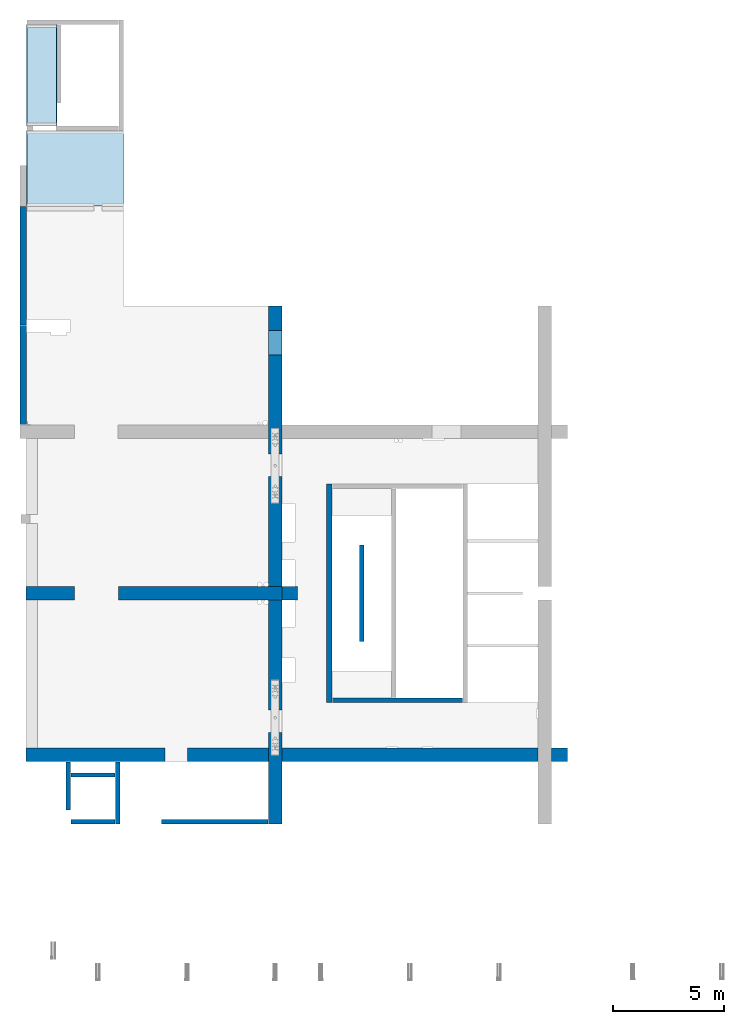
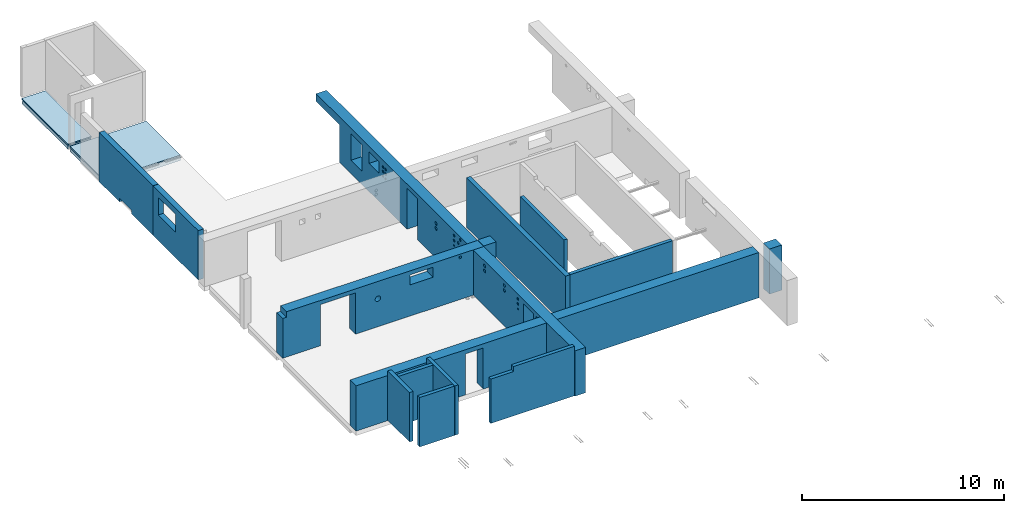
# One storey, part 4 of 8: 14 walls, 4 slabs, 45 openings.
"""IFC2X3 building model written with IfcOpenShell, lengths in millimetres."""

from ifc_helpers import new_model, entity, si_unit, converted_unit, derived_unit, direction, frame, frame_2d, origin, origin_2d_with_axis, place, context, subcontext, project, spatial, rectangle, circle, extrude, faceted_brep, material, layer, layer_set, layer_usage, type_object, element, save


model = new_model("IFC2X3")

# Units and contexts
model_context = context("Model", 3, precision=0.01, world=origin(), true_north=direction((6.12303176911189e-17, 1.0)))
body_context = subcontext(model_context, "Body", "Model", "MODEL_VIEW")
ifc_project = project(units=[si_unit("LENGTHUNIT", "METRE", prefix="MILLI"), si_unit("AREAUNIT", "SQUARE_METRE"), si_unit("VOLUMEUNIT", "CUBIC_METRE"), converted_unit("PLANEANGLEUNIT", "DEGREE", entity("IfcRatioMeasure", 0.0174532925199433), si_unit("PLANEANGLEUNIT", "RADIAN"), dimensions=[0, 0, 0, 0, 0, 0, 0]), si_unit("MASSUNIT", "GRAM", prefix="KILO"), derived_unit("MASSDENSITYUNIT", [(si_unit("MASSUNIT", "GRAM", prefix="KILO"), 1), (si_unit("LENGTHUNIT", "METRE"), -3)]), si_unit("TIMEUNIT", "SECOND"), si_unit("FREQUENCYUNIT", "HERTZ"), si_unit("THERMODYNAMICTEMPERATUREUNIT", "DEGREE_CELSIUS"), derived_unit("THERMALTRANSMITTANCEUNIT", [(si_unit("MASSUNIT", "GRAM", prefix="KILO"), 1), (si_unit("THERMODYNAMICTEMPERATUREUNIT", "KELVIN"), -1), (si_unit("TIMEUNIT", "SECOND"), -3)]), derived_unit("VOLUMETRICFLOWRATEUNIT", [(si_unit("LENGTHUNIT", "METRE"), 3), (si_unit("TIMEUNIT", "SECOND"), -1)]), si_unit("ELECTRICCURRENTUNIT", "AMPERE"), si_unit("ELECTRICVOLTAGEUNIT", "VOLT"), si_unit("POWERUNIT", "WATT"), si_unit("FORCEUNIT", "NEWTON", prefix="KILO"), si_unit("ILLUMINANCEUNIT", "LUX"), si_unit("LUMINOUSFLUXUNIT", "LUMEN"), si_unit("LUMINOUSINTENSITYUNIT", "CANDELA"), derived_unit("USERDEFINED", [(si_unit("MASSUNIT", "GRAM", prefix="KILO"), -1), (si_unit("LENGTHUNIT", "METRE"), -2), (si_unit("TIMEUNIT", "SECOND"), 3), (si_unit("LUMINOUSFLUXUNIT", "LUMEN"), 1)]), derived_unit("LINEARVELOCITYUNIT", [(si_unit("LENGTHUNIT", "METRE"), 1), (si_unit("TIMEUNIT", "SECOND"), -1)]), si_unit("PRESSUREUNIT", "PASCAL"), derived_unit("USERDEFINED", [(si_unit("LENGTHUNIT", "METRE"), -2), (si_unit("MASSUNIT", "GRAM", prefix="KILO"), 1), (si_unit("TIMEUNIT", "SECOND"), -2)])], contexts=[model_context])

# Site, building, storey
site_placement = place(None, origin())
site = spatial("IfcSite", under=ifc_project, at=site_placement, Name="Default", CompositionType="ELEMENT")
building_placement = place(site_placement, origin())
building = spatial("IfcBuilding", under=site, at=building_placement, Name="niet gebruiken", CompositionType="ELEMENT")
storey_placement = place(building_placement, frame((0.0, 0.0, 3000.0)))
storey = spatial("IfcBuildingStorey", under=building, at=storey_placement, Name="00a eerste tussenverdieping", CompositionType="ELEMENT", Elevation=3000.00000000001)

# Slabs
ifc_material_1 = material(Name="NLRS_f2_beton prefab")
ifc_layer_1 = layer(ifc_material_1, 255.0)
ifc_layer_set_1 = layer_set([ifc_layer_1], Name="Floor:NLRS_23.21_FL_kanaalplaat d=255_gen")
ifc_layer_usage_1 = layer_usage(ifc_layer_set_1, "AXIS3", "POSITIVE", 0.0)
slab_1_placement = place(storey_placement, frame((124570.0, 34885.0, -415.0)))
element("IfcSlab", 1, at=slab_1_placement, inside=storey, material=ifc_layer_usage_1, Name="Floor:NLRS_23.21_FL_kanaalplaat d=255_gen", ObjectType="Floor:NLRS_23.21_FL_kanaalplaat d=255_gen", PredefinedType="FLOOR", context=body_context, shape_type="SweptSolid", body=[
    extrude(rectangle(XDim=1310.00000000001, YDim=4490.00000000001, at=frame_2d((1510.0, 1810.0), x_axis=(-1.0, 0.0))), frame((2165.0, 4055.0, 255.0), z_axis=(0.0, 0.0, -1.0), x_axis=(-1.0, 0.0, 0.0)), (0.0, 0.0, 1.0), 255.0),
])
slab_2_placement = place(storey_placement, frame((124570.0, 34885.0, -415.0)))
element("IfcSlab", 2, at=slab_2_placement, inside=storey, material=ifc_layer_usage_1, Name="Floor:NLRS_23.21_FL_kanaalplaat d=255_gen:2", ObjectType="Floor:NLRS_23.21_FL_kanaalplaat d=255_gen", PredefinedType="FLOOR", context=body_context, shape_type="SweptSolid", body=[
    extrude(rectangle(XDim=4330.00000000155, YDim=3349.99999999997, at=frame_2d((0.0, -2380.0), x_axis=(-1.0, 0.0))), frame((2165.0, 4055.0, 255.0), z_axis=(0.0, 0.0, -1.0), x_axis=(-1.0, 0.0, 0.0)), (0.0, 0.0, 1.0), 255.0),
])
ifc_material_2 = material(Name="NLRS_f2_beton ihwg")
ifc_layer_2 = layer(ifc_material_2, 70.0)
ifc_layer_set_2 = layer_set([ifc_layer_2], Name="Floor:NLRS_23.21_FL_druklaag d=70_gen")
ifc_layer_usage_2 = layer_usage(ifc_layer_set_2, "AXIS3", "POSITIVE", 0.0)
slab_3_placement = place(storey_placement, frame((124550.0, 34885.0, -160.0)))
element("IfcSlab", 3, at=slab_3_placement, inside=storey, material=ifc_layer_usage_2, Name="Floor:NLRS_23.21_FL_druklaag d=70_gen", ObjectType="Floor:NLRS_23.21_FL_druklaag d=70_gen", PredefinedType="FLOOR", context=body_context, shape_type="SweptSolid", body=[
    extrude(rectangle(XDim=3385.00000000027, YDim=4349.99999999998, at=frame_2d((0.0, -2380.0), x_axis=(0.0, -1.0))), frame((2175.0, 4072.49999999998, 70.0), z_axis=(0.0, 0.0, -1.0), x_axis=(-1.0, 0.0, 0.0)), (0.0, 0.0, 1.0), 69.9999999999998),
])
slab_4_placement = place(storey_placement, frame((124550.0, 34885.0, -160.0)))
element("IfcSlab", 4, at=slab_4_placement, inside=storey, material=ifc_layer_usage_2, Name="Floor:NLRS_23.21_FL_druklaag d=70_gen:2", ObjectType="Floor:NLRS_23.21_FL_druklaag d=70_gen", PredefinedType="FLOOR", context=body_context, shape_type="SweptSolid", body=[
    extrude(rectangle(XDim=4560.0, YDim=1350.0, at=frame_2d((1500.0, 1792.49999999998), x_axis=(0.0, -1.0))), frame((2175.0, 4072.49999999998, 70.0), z_axis=(0.0, 0.0, -1.0), x_axis=(-1.0, 0.0, 0.0)), (0.0, 0.0, 1.0), 69.9999999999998),
])

# Wall, openings
ifc_layer_3 = layer(ifc_material_2, 600.0)
ifc_layer_set_3 = layer_set([ifc_layer_3], Name="Basic Wall:NLRS_22.21_WA_beton ihwg d=600_gen")
ifc_layer_usage_3 = layer_usage(ifc_layer_set_3, "AXIS2", "NEGATIVE", 300.0)
wall_type_1 = type_object("IfcWallType", Name="Basic Wall:NLRS_22.21_WA_beton ihwg d=600_gen", PredefinedType="STANDARD", material=ifc_layer_set_3)
wall_1_placement = place(storey_placement, frame((124530.0, 10250.0, -90.0)))
wall_1 = element("IfcWallStandardCase", 5, at=wall_1_placement, inside=storey, type_object=wall_type_1, material=ifc_layer_usage_3, Name="Basic Wall:NLRS_22.21_WA_beton ihwg d=600_gen", ObjectType="Basic Wall:NLRS_22.21_WA_beton ihwg d=600_gen", context=body_context, shape_type="SweptSolid", body=[
    extrude(rectangle(XDim=24284.0000000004, YDim=599.999999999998, at=frame_2d((12142.0000000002, -3.12638803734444e-13), x_axis=(-1.0, 0.0))), origin(), (0.0, 0.0, 1.0), 2730.0),
])
opening_1_placement = place(storey_placement, frame((124530.0, 10250.0, -90.0)))
element("IfcOpeningElement", 6, at=opening_1_placement, cuts=wall_1, Name="Basic Wall:NLRS_22.21_WA_beton ihwg d=600_gen:1", ObjectType="Opening", context=body_context, shape_type="SweptSolid", body=[
    extrude(rectangle(XDim=2730.0, YDim=600.0, at=frame_2d((0.0, 1.08002495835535e-12), x_axis=(1.0, 0.0))), frame((10870.0, 0.0, 1365.0), z_axis=(1.0, 0.0, 0.0), x_axis=(0.0, 0.0, -1.0)), (0.0, 0.0, 1.0), 600.000000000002),
])
opening_2_placement = place(storey_placement, frame((124530.0, 10250.0, -90.0)))
element("IfcOpeningElement", 7, at=opening_2_placement, cuts=wall_1, Name="Basic Wall:NLRS_22.21_WA_beton ihwg d=600_gen:2", ObjectType="Opening", context=body_context, shape_type="SweptSolid", body=[
    extrude(rectangle(XDim=2730.0, YDim=600.0, at=frame_2d((0.0, 1.08002495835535e-12), x_axis=(1.0, 0.0))), frame((22970.0, 0.0, 1365.0), z_axis=(1.0, 0.0, 0.0), x_axis=(0.0, 0.0, -1.0)), (0.0, 0.0, 1.0), 600.000000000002),
])
opening_3_placement = place(wall_1_placement, origin())
element("IfcOpeningElement", 8, at=opening_3_placement, cuts=wall_1, Name="Basic Wall:NLRS_22.21_WA_beton ihwg d=600_gen", ObjectType="Opening", context=body_context, shape_type="SweptSolid", body=[
    extrude(rectangle(XDim=2475.0, YDim=1015.99999999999, at=frame_2d((0.0, -8.66862137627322e-12), x_axis=(1.0, 0.0))), frame((6738.0, -300.0, 1237.5), z_axis=(0.0, 1.0, 0.0), x_axis=(0.0, 0.0, -1.0)), (0.0, 0.0, 1.0), 600.0),
])

ifc_layer_usage_4 = layer_usage(ifc_layer_set_3, "AXIS2", "NEGATIVE", 300.0)
wall_2_placement = place(storey_placement, frame((124530.0, 17500.0, -90.0)))
wall_2 = element("IfcWallStandardCase", 9, at=wall_2_placement, inside=storey, type_object=wall_type_1, material=ifc_layer_usage_4, Name="Basic Wall:NLRS_22.21_WA_beton ihwg d=600_gen", ObjectType="Basic Wall:NLRS_22.21_WA_beton ihwg d=600_gen", context=body_context, shape_type="SweptSolid", body=[
    extrude(rectangle(XDim=11470.0000000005, YDim=600.000000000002, at=frame_2d((5735.00000000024, 0.0), x_axis=(-1.0, 0.0))), origin(), (0.0, 0.0, 1.0), 2730.0),
])
opening_4_placement = place(wall_2_placement, origin())
element("IfcOpeningElement", 10, at=opening_4_placement, cuts=wall_2, Name="Basic Wall:NLRS_22.21_WA_beton ihwg d=600_gen", ObjectType="Opening", context=body_context, shape_type="SweptSolid", body=[
    extrude(rectangle(XDim=2485.0, YDim=1985.0, at=frame_2d((0.0, -8.69704308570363e-12), x_axis=(1.0, 0.0))), frame((3152.50000000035, -300.0, 1242.5), z_axis=(0.0, 1.0, 0.0), x_axis=(0.0, 0.0, -1.0)), (0.0, 0.0, 1.0), 600.0),
])
opening_5_placement = place(wall_2_placement, origin())
element("IfcOpeningElement", 11, at=opening_5_placement, cuts=wall_2, Name="Basic Wall:NLRS_22.21_WA_beton ihwg d=600_gen", ObjectType="Opening", context=body_context, shape_type="SweptSolid", body=[
    extrude(circle(Radius=80.0, at=origin_2d_with_axis()), frame((10120.0, -300.0, 2540.0), z_axis=(0.0, 1.0, 0.0), x_axis=(1.0, 0.0, 0.0)), (0.0, 0.0, 1.0), 600.0),
])
opening_6_placement = place(wall_2_placement, origin())
element("IfcOpeningElement", 12, at=opening_6_placement, cuts=wall_2, Name="Basic Wall:NLRS_22.21_WA_beton ihwg d=600_gen", ObjectType="Opening", context=body_context, shape_type="SweptSolid", body=[
    extrude(circle(Radius=157.5, at=frame_2d((0.0, -1.08286712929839e-12), x_axis=(1.0, 0.0))), frame((5425.0, -300.0, 1690.0), z_axis=(0.0, 1.0, 0.0), x_axis=(1.0, 0.0, 0.0)), (0.0, 0.0, 1.0), 600.0),
])
opening_7_placement = place(wall_2_placement, origin())
element("IfcOpeningElement", 13, at=opening_7_placement, cuts=wall_2, Name="Basic Wall:NLRS_22.21_WA_beton ihwg d=600_gen", ObjectType="Opening", context=body_context, shape_type="SweptSolid", body=[
    extrude(rectangle(XDim=600.000000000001, YDim=1300.0, at=frame_2d((0.0, 8.69704308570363e-12), x_axis=(1.0, 0.0))), frame((7920.0, -300.0, 2185.0), z_axis=(0.0, 1.0, 0.0), x_axis=(0.0, 0.0, -1.0)), (0.0, 0.0, 1.0), 600.0),
])
opening_8_placement = place(wall_2_placement, origin())
element("IfcOpeningElement", 14, at=opening_8_placement, cuts=wall_2, Name="Basic Wall:NLRS_22.21_WA_beton ihwg d=600_gen", ObjectType="Opening", context=body_context, shape_type="SweptSolid", body=[
    extrude(rectangle(XDim=329.999999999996, YDim=220.00000000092, at=frame_2d((0.0, -5.40012479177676e-13), x_axis=(0.0, 1.0))), frame((110.0, 300.0, 2565.0), z_axis=(0.0, -1.0, 0.0), x_axis=(-1.0, 0.0, 0.0)), (0.0, 0.0, 1.0), 600.0),
])

ifc_layer_usage_5 = layer_usage(ifc_layer_set_3, "AXIS2", "NEGATIVE", 300.0)
wall_3_placement = place(storey_placement, frame((135700.0, 7150.0, -90.0), z_axis=(0.0, 0.0, 1.0), x_axis=(0.0, 1.0, 0.0)))
wall_3 = element("IfcWallStandardCase", 15, at=wall_3_placement, inside=storey, type_object=wall_type_1, material=ifc_layer_usage_5, Name="Basic Wall:NLRS_22.21_WA_beton ihwg d=600_gen", ObjectType="Basic Wall:NLRS_22.21_WA_beton ihwg d=600_gen", context=body_context, shape_type="SweptSolid", body=[
    extrude(rectangle(XDim=25580.000000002, YDim=600.000000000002, at=frame_2d((12790.000000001, 1.3926637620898e-12), x_axis=(-1.0, 0.0))), origin(), (0.0, 0.0, 1.0), 2730.0),
])
opening_9_placement = place(storey_placement, frame((135700.0, 7150.0, -90.0), z_axis=(0.0, 0.0, 1.0), x_axis=(0.0, 1.0, 0.0)))
element("IfcOpeningElement", 16, at=opening_9_placement, cuts=wall_3, Name="Basic Wall:NLRS_22.21_WA_beton ihwg d=600_gen:1", ObjectType="Opening", context=body_context, shape_type="SweptSolid", body=[
    extrude(rectangle(XDim=2730.0, YDim=600.000000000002, at=origin_2d_with_axis()), frame((10050.0, 0.0, 1365.0), z_axis=(1.0, 0.0, 0.0), x_axis=(0.0, 0.0, -1.0)), (0.0, 0.0, 1.0), 600.0),
])
opening_10_placement = place(wall_3_placement, origin())
element("IfcOpeningElement", 17, at=opening_10_placement, cuts=wall_3, Name="Basic Wall:NLRS_22.21_WA_beton ihwg d=600_gen", ObjectType="Opening", context=body_context, shape_type="SweptSolid", body=[
    extrude(rectangle(XDim=2475.0, YDim=1016.0, at=frame_2d((0.0, 1.08002495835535e-12), x_axis=(1.0, 0.0))), frame((4608.0, -300.0, 1237.5), z_axis=(0.0, 1.0, 0.0), x_axis=(0.0, 0.0, -1.0)), (0.0, 0.0, 1.0), 600.000000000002),
])
opening_11_placement = place(wall_3_placement, origin())
element("IfcOpeningElement", 18, at=opening_11_placement, cuts=wall_3, Name="Basic Wall:NLRS_22.21_WA_beton ihwg d=600_gen", ObjectType="Opening", context=body_context, shape_type="SweptSolid", body=[
    extrude(rectangle(XDim=2475.0, YDim=1016.0, at=frame_2d((0.0, -2.1600499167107e-12), x_axis=(1.0, 0.0))), frame((16092.0, -300.0, 1237.5), z_axis=(0.0, 1.0, 0.0), x_axis=(0.0, 0.0, -1.0)), (0.0, 0.0, 1.0), 600.000000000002),
])
opening_12_placement = place(wall_3_placement, origin())
element("IfcOpeningElement", 19, at=opening_12_placement, cuts=wall_3, Name="Basic Wall:NLRS_22.21_WA_beton ihwg d=600_gen", ObjectType="Opening", context=body_context, shape_type="SweptSolid", body=[
    extrude(circle(Radius=100.0, at=origin_2d_with_axis()), frame((8935.0, -300.0, 2440.0), z_axis=(0.0, 1.0, 0.0), x_axis=(1.0, 0.0, 0.0)), (0.0, 0.0, 1.0), 600.000000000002),
])
opening_13_placement = place(wall_3_placement, origin())
element("IfcOpeningElement", 20, at=opening_13_placement, cuts=wall_3, Name="Basic Wall:NLRS_22.21_WA_beton ihwg d=600_gen", ObjectType="Opening", context=body_context, shape_type="SweptSolid", body=[
    extrude(circle(Radius=100.0, at=origin_2d_with_axis()), frame((8935.0, -300.0, 2140.0), z_axis=(0.0, 1.0, 0.0), x_axis=(1.0, 0.0, 0.0)), (0.0, 0.0, 1.0), 600.000000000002),
])
opening_14_placement = place(wall_3_placement, origin())
element("IfcOpeningElement", 21, at=opening_14_placement, cuts=wall_3, Name="Basic Wall:NLRS_22.21_WA_beton ihwg d=600_gen", ObjectType="Opening", context=body_context, shape_type="SweptSolid", body=[
    extrude(circle(Radius=100.0, at=origin_2d_with_axis()), frame((6985.0, -300.0, 2440.0), z_axis=(0.0, 1.0, 0.0), x_axis=(1.0, 0.0, 0.0)), (0.0, 0.0, 1.0), 600.000000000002),
])
opening_15_placement = place(wall_3_placement, origin())
element("IfcOpeningElement", 22, at=opening_15_placement, cuts=wall_3, Name="Basic Wall:NLRS_22.21_WA_beton ihwg d=600_gen", ObjectType="Opening", context=body_context, shape_type="SweptSolid", body=[
    extrude(circle(Radius=100.0, at=origin_2d_with_axis()), frame((6985.0, -300.0, 2140.0), z_axis=(0.0, 1.0, 0.0), x_axis=(1.0, 0.0, 0.0)), (0.0, 0.0, 1.0), 600.000000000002),
])
opening_16_placement = place(wall_3_placement, origin())
element("IfcOpeningElement", 23, at=opening_16_placement, cuts=wall_3, Name="Basic Wall:NLRS_22.21_WA_beton ihwg d=600_gen", ObjectType="Opening", context=body_context, shape_type="SweptSolid", body=[
    extrude(circle(Radius=80.0, at=origin_2d_with_axis()), frame((5655.0, -300.0, 2440.0), z_axis=(0.0, 1.0, 0.0), x_axis=(1.0, 0.0, 0.0)), (0.0, 0.0, 1.0), 600.000000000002),
])
opening_17_placement = place(wall_3_placement, origin())
element("IfcOpeningElement", 24, at=opening_17_placement, cuts=wall_3, Name="Basic Wall:NLRS_22.21_WA_beton ihwg d=600_gen", ObjectType="Opening", context=body_context, shape_type="SweptSolid", body=[
    extrude(circle(Radius=80.0, at=origin_2d_with_axis()), frame((5655.0, -300.0, 2140.0), z_axis=(0.0, 1.0, 0.0), x_axis=(1.0, 0.0, 0.0)), (0.0, 0.0, 1.0), 600.000000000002),
])
opening_18_placement = place(wall_3_placement, origin())
element("IfcOpeningElement", 25, at=opening_18_placement, cuts=wall_3, Name="Basic Wall:NLRS_22.21_WA_beton ihwg d=600_gen", ObjectType="Opening", context=body_context, shape_type="SweptSolid", body=[
    extrude(circle(Radius=55.0, at=origin_2d_with_axis()), frame((5655.0, -300.0, 1840.0), z_axis=(0.0, 1.0, 0.0), x_axis=(1.0, 0.0, 0.0)), (0.0, 0.0, 1.0), 600.000000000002),
])
opening_19_placement = place(wall_3_placement, origin())
element("IfcOpeningElement", 26, at=opening_19_placement, cuts=wall_3, Name="Basic Wall:NLRS_22.21_WA_beton ihwg d=600_gen", ObjectType="Opening", context=body_context, shape_type="SweptSolid", body=[
    extrude(circle(Radius=100.0, at=origin_2d_with_axis()), frame((13735.0, -300.0, 2090.0), z_axis=(0.0, 1.0, 0.0), x_axis=(1.0, 0.0, 0.0)), (0.0, 0.0, 1.0), 600.000000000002),
])
opening_20_placement = place(wall_3_placement, origin())
element("IfcOpeningElement", 27, at=opening_20_placement, cuts=wall_3, Name="Basic Wall:NLRS_22.21_WA_beton ihwg d=600_gen", ObjectType="Opening", context=body_context, shape_type="SweptSolid", body=[
    extrude(circle(Radius=100.0, at=frame_2d((0.0, -5.41433564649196e-13), x_axis=(1.0, 0.0))), frame((13735.0, -300.0, 1790.0), z_axis=(0.0, 1.0, 0.0), x_axis=(1.0, 0.0, 0.0)), (0.0, 0.0, 1.0), 600.000000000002),
])
opening_21_placement = place(wall_3_placement, origin())
element("IfcOpeningElement", 28, at=opening_21_placement, cuts=wall_3, Name="Basic Wall:NLRS_22.21_WA_beton ihwg d=600_gen", ObjectType="Opening", context=body_context, shape_type="SweptSolid", body=[
    extrude(circle(Radius=80.0, at=origin_2d_with_axis()), frame((11955.0, -300.0, 2440.0), z_axis=(0.0, 1.0, 0.0), x_axis=(1.0, 0.0, 0.0)), (0.0, 0.0, 1.0), 600.000000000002),
])
opening_22_placement = place(wall_3_placement, origin())
element("IfcOpeningElement", 29, at=opening_22_placement, cuts=wall_3, Name="Basic Wall:NLRS_22.21_WA_beton ihwg d=600_gen", ObjectType="Opening", context=body_context, shape_type="SweptSolid", body=[
    extrude(circle(Radius=80.0, at=origin_2d_with_axis()), frame((11955.0, -300.0, 2140.0), z_axis=(0.0, 1.0, 0.0), x_axis=(1.0, 0.0, 0.0)), (0.0, 0.0, 1.0), 600.000000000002),
])
opening_23_placement = place(wall_3_placement, origin())
element("IfcOpeningElement", 30, at=opening_23_placement, cuts=wall_3, Name="Basic Wall:NLRS_22.21_WA_beton ihwg d=600_gen", ObjectType="Opening", context=body_context, shape_type="SweptSolid", body=[
    extrude(circle(Radius=55.0, at=origin_2d_with_axis()), frame((11955.0, -300.0, 1840.0), z_axis=(0.0, 1.0, 0.0), x_axis=(1.0, 0.0, 0.0)), (0.0, 0.0, 1.0), 600.000000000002),
])
opening_24_placement = place(wall_3_placement, origin())
element("IfcOpeningElement", 31, at=opening_24_placement, cuts=wall_3, Name="Basic Wall:NLRS_22.21_WA_beton ihwg d=600_gen", ObjectType="Opening", context=body_context, shape_type="SweptSolid", body=[
    extrude(circle(Radius=80.0, at=origin_2d_with_axis()), frame((11345.0, -300.0, 2540.0), z_axis=(0.0, 1.0, 0.0), x_axis=(1.0, 0.0, 0.0)), (0.0, 0.0, 1.0), 600.000000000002),
])
opening_25_placement = place(wall_3_placement, origin())
element("IfcOpeningElement", 32, at=opening_25_placement, cuts=wall_3, Name="Basic Wall:NLRS_22.21_WA_beton ihwg d=600_gen", ObjectType="Opening", context=body_context, shape_type="SweptSolid", body=[
    extrude(circle(Radius=80.0, at=origin_2d_with_axis()), frame((11545.0, -300.0, 2240.0), z_axis=(0.0, 1.0, 0.0), x_axis=(1.0, 0.0, 0.0)), (0.0, 0.0, 1.0), 600.000000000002),
])
opening_26_placement = place(wall_3_placement, origin())
element("IfcOpeningElement", 33, at=opening_26_placement, cuts=wall_3, Name="Basic Wall:NLRS_22.21_WA_beton ihwg d=600_gen", ObjectType="Opening", context=body_context, shape_type="SweptSolid", body=[
    extrude(circle(Radius=55.0, at=origin_2d_with_axis()), frame((3800.0, -300.0, 2425.0), z_axis=(0.0, 1.0, 0.0), x_axis=(1.0, 0.0, 0.0)), (0.0, 0.0, 1.0), 600.000000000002),
])
opening_27_placement = place(wall_3_placement, origin())
element("IfcOpeningElement", 34, at=opening_27_placement, cuts=wall_3, Name="Basic Wall:NLRS_22.21_WA_beton ihwg d=600_gen", ObjectType="Opening", context=body_context, shape_type="SweptSolid", body=[
    extrude(circle(Radius=55.0, at=origin_2d_with_axis()), frame((3800.0, -300.0, 2225.0), z_axis=(0.0, 1.0, 0.0), x_axis=(1.0, 0.0, 0.0)), (0.0, 0.0, 1.0), 600.000000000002),
])
opening_28_placement = place(wall_3_placement, origin())
element("IfcOpeningElement", 35, at=opening_28_placement, cuts=wall_3, Name="Basic Wall:NLRS_22.21_WA_beton ihwg d=600_gen", ObjectType="Opening", context=body_context, shape_type="SweptSolid", body=[
    extrude(circle(Radius=55.0, at=origin_2d_with_axis()), frame((3800.0, -300.0, 2025.0), z_axis=(0.0, 1.0, 0.0), x_axis=(1.0, 0.0, 0.0)), (0.0, 0.0, 1.0), 600.000000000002),
])
opening_29_placement = place(wall_3_placement, origin())
element("IfcOpeningElement", 36, at=opening_29_placement, cuts=wall_3, Name="Basic Wall:NLRS_22.21_WA_beton ihwg d=600_gen", ObjectType="Opening", context=body_context, shape_type="SweptSolid", body=[
    extrude(circle(Radius=55.0, at=origin_2d_with_axis()), frame((3600.0, -300.0, 2425.0), z_axis=(0.0, 1.0, 0.0), x_axis=(1.0, 0.0, 0.0)), (0.0, 0.0, 1.0), 600.000000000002),
])
opening_30_placement = place(wall_3_placement, origin())
element("IfcOpeningElement", 37, at=opening_30_placement, cuts=wall_3, Name="Basic Wall:NLRS_22.21_WA_beton ihwg d=600_gen", ObjectType="Opening", context=body_context, shape_type="SweptSolid", body=[
    extrude(circle(Radius=55.0, at=origin_2d_with_axis()), frame((3600.0, -300.0, 2225.0), z_axis=(0.0, 1.0, 0.0), x_axis=(1.0, 0.0, 0.0)), (0.0, 0.0, 1.0), 600.000000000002),
])
opening_31_placement = place(wall_3_placement, origin())
element("IfcOpeningElement", 38, at=opening_31_placement, cuts=wall_3, Name="Basic Wall:NLRS_22.21_WA_beton ihwg d=600_gen", ObjectType="Opening", context=body_context, shape_type="SweptSolid", body=[
    extrude(circle(Radius=55.0, at=origin_2d_with_axis()), frame((3600.0, -300.0, 2025.0), z_axis=(0.0, 1.0, 0.0), x_axis=(1.0, 0.0, 0.0)), (0.0, 0.0, 1.0), 600.000000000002),
])
opening_32_placement = place(wall_3_placement, origin())
element("IfcOpeningElement", 39, at=opening_32_placement, cuts=wall_3, Name="Basic Wall:NLRS_22.21_WA_beton ihwg d=600_gen", ObjectType="Opening", context=body_context, shape_type="SweptSolid", body=[
    extrude(rectangle(XDim=1600.0, YDim=1100.0, at=origin_2d_with_axis()), frame((21600.0, -300.0, 1600.0), z_axis=(0.0, 1.0, 0.0), x_axis=(0.0, 0.0, -1.0)), (0.0, 0.0, 1.0), 600.000000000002),
])
opening_33_placement = place(wall_3_placement, origin())
element("IfcOpeningElement", 40, at=opening_33_placement, cuts=wall_3, Name="Basic Wall:NLRS_22.21_WA_beton ihwg d=600_gen", ObjectType="Opening", context=body_context, shape_type="SweptSolid", body=[
    extrude(rectangle(XDim=700.0, YDim=1000.0, at=frame_2d((-5.40012479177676e-13, -2.1600499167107e-12), x_axis=(1.0, 0.0))), frame((19850.0000398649, -300.0, 2050.0), z_axis=(0.0, 1.0, 0.0), x_axis=(0.0, 0.0, -1.0)), (0.0, 0.0, 1.0), 600.000000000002),
])
opening_34_placement = place(wall_3_placement, origin())
element("IfcOpeningElement", 41, at=opening_34_placement, cuts=wall_3, Name="Basic Wall:NLRS_22.21_WA_beton ihwg d=600_gen", ObjectType="Opening", context=body_context, shape_type="SweptSolid", body=[
    extrude(circle(Radius=80.0, at=origin_2d_with_axis()), frame((18970.0000398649, -300.0, 2320.0), z_axis=(0.0, 1.0, 0.0), x_axis=(1.0, 0.0, 0.0)), (0.0, 0.0, 1.0), 600.000000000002),
])
opening_35_placement = place(wall_3_placement, origin())
element("IfcOpeningElement", 42, at=opening_35_placement, cuts=wall_3, Name="Basic Wall:NLRS_22.21_WA_beton ihwg d=600_gen", ObjectType="Opening", context=body_context, shape_type="SweptSolid", body=[
    extrude(circle(Radius=80.0, at=origin_2d_with_axis()), frame((18720.0000398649, -300.0, 2320.0), z_axis=(0.0, 1.0, 0.0), x_axis=(1.0, 0.0, 0.0)), (0.0, 0.0, 1.0), 600.000000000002),
])
opening_36_placement = place(wall_3_placement, origin())
element("IfcOpeningElement", 43, at=opening_36_placement, cuts=wall_3, Name="Basic Wall:NLRS_22.21_WA_beton ihwg d=600_gen", ObjectType="Opening", context=body_context, shape_type="SweptSolid", body=[
    extrude(circle(Radius=80.0, at=origin_2d_with_axis()), frame((18970.0000398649, -300.0, 2040.0), z_axis=(0.0, 1.0, 0.0), x_axis=(1.0, 0.0, 0.0)), (0.0, 0.0, 1.0), 600.000000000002),
])
opening_37_placement = place(wall_3_placement, origin())
element("IfcOpeningElement", 44, at=opening_37_placement, cuts=wall_3, Name="Basic Wall:NLRS_22.21_WA_beton ihwg d=600_gen", ObjectType="Opening", context=body_context, shape_type="SweptSolid", body=[
    extrude(circle(Radius=80.0, at=origin_2d_with_axis()), frame((18720.0000398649, -300.0, 2040.0), z_axis=(0.0, 1.0, 0.0), x_axis=(1.0, 0.0, 0.0)), (0.0, 0.0, 1.0), 600.000000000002),
])
opening_38_placement = place(wall_3_placement, origin())
element("IfcOpeningElement", 45, at=opening_38_placement, cuts=wall_3, Name="Basic Wall:NLRS_22.21_WA_beton ihwg d=600_gen", ObjectType="Opening", context=body_context, shape_type="SweptSolid", body=[
    extrude(circle(Radius=55.0, at=origin_2d_with_axis()), frame((3800.0, -300.0, 1825.0), z_axis=(0.0, 1.0, 0.0), x_axis=(1.0, 0.0, 0.0)), (0.0, 0.0, 1.0), 600.000000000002),
])
opening_39_placement = place(wall_3_placement, origin())
element("IfcOpeningElement", 46, at=opening_39_placement, cuts=wall_3, Name="Basic Wall:NLRS_22.21_WA_beton ihwg d=600_gen", ObjectType="Opening", context=body_context, shape_type="SweptSolid", body=[
    extrude(circle(Radius=55.0, at=origin_2d_with_axis()), frame((3600.0, -300.0, 1825.0), z_axis=(0.0, 1.0, 0.0), x_axis=(1.0, 0.0, 0.0)), (0.0, 0.0, 1.0), 600.000000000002),
])
opening_40_placement = place(wall_3_placement, origin())
element("IfcOpeningElement", 47, at=opening_40_placement, cuts=wall_3, Name="Basic Wall:NLRS_22.21_WA_beton ihwg d=600_gen", ObjectType="Opening", context=body_context, shape_type="SweptSolid", body=[
    extrude(circle(Radius=55.0, at=origin_2d_with_axis()), frame((18970.0000398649, -300.0, 1755.0), z_axis=(0.0, 1.0, 0.0), x_axis=(1.0, 0.0, 0.0)), (0.0, 0.0, 1.0), 600.000000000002),
])
opening_41_placement = place(wall_3_placement, origin())
element("IfcOpeningElement", 48, at=opening_41_placement, cuts=wall_3, Name="Basic Wall:NLRS_22.21_WA_beton ihwg d=600_gen", ObjectType="Opening", context=body_context, shape_type="SweptSolid", body=[
    extrude(circle(Radius=55.0, at=origin_2d_with_axis()), frame((18720.0000398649, -300.0, 1755.0), z_axis=(0.0, 1.0, 0.0), x_axis=(1.0, 0.0, 0.0)), (0.0, 0.0, 1.0), 600.000000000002),
])
opening_42_placement = place(wall_3_placement, origin())
element("IfcOpeningElement", 49, at=opening_42_placement, cuts=wall_3, Name="Basic Wall:NLRS_22.21_WA_beton ihwg d=600_gen", ObjectType="Opening", context=body_context, shape_type="SweptSolid", body=[
    extrude(rectangle(XDim=2269.99999999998, YDim=2330.00000000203, at=frame_2d((0.0, -2.27373675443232e-13), x_axis=(0.0, 1.0))), frame((24415.0, 300.0, 1135.0), z_axis=(0.0, -1.0, 0.0), x_axis=(-1.0, 0.0, 0.0)), (0.0, 0.0, 1.0), 600.0),
])

# Walls
ifc_layer_usage_6 = layer_usage(ifc_layer_set_3, "AXIS2", "NEGATIVE", 300.0)
wall_4_placement = place(storey_placement, frame((136000.0, 17500.0, -90.0)))
element("IfcWallStandardCase", 50, at=wall_4_placement, inside=storey, type_object=wall_type_1, material=ifc_layer_usage_6, Name="Basic Wall:NLRS_22.21_WA_beton ihwg d=600_gen", ObjectType="Basic Wall:NLRS_22.21_WA_beton ihwg d=600_gen", context=body_context, shape_type="SweptSolid", body=[
    extrude(rectangle(XDim=699.999999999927, YDim=600.000000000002, at=frame_2d((349.999999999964, 5.6843418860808e-14), x_axis=(-1.0, 0.0))), origin(), (0.0, 0.0, 1.0), 2760.0),
])
ifc_layer_4 = layer(ifc_material_1, 200.0)
ifc_layer_set_4 = layer_set([ifc_layer_4], Name="Basic Wall:NLRS_22.21_WA_beton prefab d=200_gen")
ifc_layer_usage_7 = layer_usage(ifc_layer_set_4, "AXIS2", "NEGATIVE", 100.0)
wall_type_2 = type_object("IfcWallType", Name="Basic Wall:NLRS_22.21_WA_beton prefab d=200_gen", PredefinedType="STANDARD", material=ifc_layer_set_4)
wall_5_placement = place(storey_placement, frame((126420.0, 7770.0, -50.0), z_axis=(0.0, 0.0, 1.0), x_axis=(0.0, 1.0, 0.0)))
element("IfcWallStandardCase", 51, at=wall_5_placement, inside=storey, type_object=wall_type_2, material=ifc_layer_usage_7, Name="Basic Wall:NLRS_22.21_WA_beton prefab d=200_gen", ObjectType="Basic Wall:NLRS_22.21_WA_beton prefab d=200_gen", context=body_context, shape_type="SweptSolid", body=[
    extrude(rectangle(XDim=2160.0, YDim=199.999999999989, at=frame_2d((1080.0, 0.0), x_axis=(-1.0, 0.0))), origin(), (0.0, 0.0, 1.0), 2980.0),
])
ifc_layer_usage_8 = layer_usage(ifc_layer_set_4, "AXIS2", "NEGATIVE", 100.0)
wall_6_placement = place(storey_placement, frame((128640.0, 7150.0, -50.0), z_axis=(0.0, 0.0, 1.0), x_axis=(0.0, 1.0, 0.0)))
element("IfcWallStandardCase", 52, at=wall_6_placement, inside=storey, type_object=wall_type_2, material=ifc_layer_usage_8, Name="Basic Wall:NLRS_22.21_WA_beton prefab d=200_gen", ObjectType="Basic Wall:NLRS_22.21_WA_beton prefab d=200_gen", context=body_context, shape_type="SweptSolid", body=[
    extrude(rectangle(XDim=2779.99999999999, YDim=199.999999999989, at=frame_2d((1390.0, 0.0), x_axis=(-1.0, 0.0))), origin(), (0.0, 0.0, 1.0), 2980.0),
])
ifc_layer_usage_9 = layer_usage(ifc_layer_set_4, "AXIS2", "NEGATIVE", 100.0)
wall_7_placement = place(storey_placement, frame((126540.0, 7250.0, -50.0)))
element("IfcWallStandardCase", 53, at=wall_7_placement, inside=storey, type_object=wall_type_2, material=ifc_layer_usage_9, Name="Basic Wall:NLRS_22.21_WA_beton prefab d=200_gen", ObjectType="Basic Wall:NLRS_22.21_WA_beton prefab d=200_gen", context=body_context, shape_type="SweptSolid", body=[
    extrude(rectangle(XDim=1979.99999999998, YDim=200.0, at=frame_2d((989.999999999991, -2.98427949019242e-13), x_axis=(-1.0, 0.0))), origin(), (0.0, 0.0, 1.0), 2980.0),
])
ifc_layer_usage_10 = layer_usage(ifc_layer_set_4, "AXIS2", "NEGATIVE", 100.0)
wall_8_placement = place(storey_placement, frame((126540.0, 9350.0, -50.0)))
element("IfcWallStandardCase", 54, at=wall_8_placement, inside=storey, type_object=wall_type_2, material=ifc_layer_usage_10, Name="Basic Wall:NLRS_22.21_WA_beton prefab d=200_gen", ObjectType="Basic Wall:NLRS_22.21_WA_beton prefab d=200_gen", context=body_context, shape_type="SweptSolid", body=[
    extrude(rectangle(XDim=1980.0, YDim=200.0, at=frame_2d((990.0, -2.98427949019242e-13), x_axis=(-1.0, 0.0))), origin(), (0.0, 0.0, 1.0), 2980.0),
])
ifc_layer_usage_11 = layer_usage(ifc_layer_set_4, "AXIS2", "NEGATIVE", 100.0)
wall_9_placement = place(storey_placement, frame((139590.0, 19660.0, -50.0), z_axis=(0.0, 0.0, 1.0), x_axis=(0.0, -1.0, 0.0)))
element("IfcWallStandardCase", 55, at=wall_9_placement, inside=storey, type_object=wall_type_2, material=ifc_layer_usage_11, Name="Basic Wall:NLRS_22.21_WA_beton prefab d=200_gen", ObjectType="Basic Wall:NLRS_22.21_WA_beton prefab d=200_gen", context=body_context, shape_type="SweptSolid", body=[
    extrude(rectangle(XDim=4320.00000000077, YDim=199.999999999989, at=frame_2d((2160.00000000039, 0.0), x_axis=(-1.0, 0.0))), origin(), (0.0, 0.0, 1.0), 2980.0),
])
ifc_layer_usage_12 = layer_usage(ifc_layer_set_4, "AXIS2", "NEGATIVE", 100.0)
wall_10_placement = place(storey_placement, frame((138270.0, 12700.0, -50.0)))
element("IfcWallStandardCase", 56, at=wall_10_placement, inside=storey, type_object=wall_type_2, material=ifc_layer_usage_12, Name="Basic Wall:NLRS_22.21_WA_beton prefab d=200_gen", ObjectType="Basic Wall:NLRS_22.21_WA_beton prefab d=200_gen", context=body_context, shape_type="SweptSolid", body=[
    extrude(rectangle(XDim=5840.00000000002, YDim=199.999999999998, at=frame_2d((2920.00000000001, -6.82121026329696e-13), x_axis=(-1.0, 0.0))), origin(), (0.0, 0.0, 1.0), 2980.0),
])

# Wall, opening
ifc_layer_usage_13 = layer_usage(ifc_layer_set_4, "AXIS2", "NEGATIVE", 100.0)
wall_11_placement = place(storey_placement, frame((130600.0, 7250.0, -50.0)))
wall_11 = element("IfcWallStandardCase", 57, at=wall_11_placement, inside=storey, type_object=wall_type_2, material=ifc_layer_usage_13, Name="Basic Wall:NLRS_22.21_WA_beton prefab d=200_gen", ObjectType="Basic Wall:NLRS_22.21_WA_beton prefab d=200_gen", context=body_context, shape_type="SweptSolid", body=[
    extrude(rectangle(XDim=4779.99999999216, YDim=200.0, at=frame_2d((2389.99999999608, 7.105427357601e-14), x_axis=(-1.0, 0.0))), origin(), (0.0, 0.0, 1.0), 2980.0),
])
opening_43_placement = place(wall_11_placement, origin())
element("IfcOpeningElement", 58, at=opening_43_placement, cuts=wall_11, Name="Basic Wall:NLRS_22.21_WA_beton prefab d=200_gen", ObjectType="Opening", context=body_context, shape_type="SweptSolid", body=[
    extrude(rectangle(XDim=309.999999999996, YDim=1290.0, at=frame_2d((-8.69704308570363e-12, 1.63424829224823e-12), x_axis=(0.0, 1.0))), frame((645.0, 100.0, 2825.0), z_axis=(0.0, -1.0, 0.0), x_axis=(-1.0, 0.0, 0.0)), (0.0, 0.0, 1.0), 200.0),
])

ifc_layer_5 = layer(ifc_material_1, 300.0)
ifc_layer_set_5 = layer_set([ifc_layer_5], Name="Basic Wall:NLRS_22.21_WA_beton prefab d=300_gen")
ifc_layer_usage_14 = layer_usage(ifc_layer_set_5, "AXIS2", "NEGATIVE", 150.0)
wall_type_3 = type_object("IfcWallType", Name="Basic Wall:NLRS_22.21_WA_beton prefab d=300_gen", PredefinedType="STANDARD", material=ifc_layer_set_5)
wall_12_placement = place(storey_placement, frame((124400.0, 25070.0, -50.0), z_axis=(0.0, 0.0, 1.0), x_axis=(0.0, 1.0, 0.0)))
wall_12 = element("IfcWallStandardCase", 59, at=wall_12_placement, inside=storey, type_object=wall_type_3, material=ifc_layer_usage_14, Name="Basic Wall:NLRS_22.21_WA_beton prefab d=300_gen", ObjectType="Basic Wall:NLRS_22.21_WA_beton prefab d=300_gen", context=body_context, shape_type="SweptSolid", body=[
    extrude(rectangle(XDim=4450.0, YDim=300.000000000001, at=frame_2d((2225.0, 0.0), x_axis=(-1.0, 0.0))), origin(), (0.0, 0.0, 1.0), 2980.0),
])
opening_44_placement = place(wall_12_placement, frame((2212.0, 150.0, 1522.0)))
element("IfcOpeningElement", 60, at=opening_44_placement, cuts=wall_12, Name="Basic Wall:NLRS_22.21_WA_beton prefab d=300_gen", ObjectType="Opening", context=body_context, shape_type="Brep", body=[
    faceted_brep([(1746.0, -300.0, 1096.0), (0.0, -300.0, 1096.0), (0.0, -300.0, 0.0), (1746.0, -300.0, 0.0), (1728.0, 0.0, 1078.0), (1728.0, 0.0, 18.0), (18.0, 0.0, 18.0), (18.0, 0.0, 1078.0)], [[[0, 1, 2, 3]], [[4, 5, 6, 7]], [[4, 7, 1, 0]], [[7, 6, 2, 1]], [[6, 5, 3, 2]], [[5, 4, 0, 3]]]),
])

ifc_layer_usage_15 = layer_usage(ifc_layer_set_5, "AXIS2", "NEGATIVE", 150.0)
wall_13_placement = place(storey_placement, frame((124400.0, 29540.0, -50.0), z_axis=(0.0, 0.0, 1.0), x_axis=(0.0, 1.0, 0.0)))
wall_13 = element("IfcWallStandardCase", 61, at=wall_13_placement, inside=storey, type_object=wall_type_3, material=ifc_layer_usage_15, Name="Basic Wall:NLRS_22.21_WA_beton prefab d=300_gen", ObjectType="Basic Wall:NLRS_22.21_WA_beton prefab d=300_gen", context=body_context, shape_type="SweptSolid", body=[
    extrude(rectangle(XDim=5310.0, YDim=300.000000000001, at=frame_2d((2655.0, 0.0), x_axis=(-1.0, 0.0))), origin(), (0.0, 0.0, 1.0), 2980.0),
])
opening_45_placement = place(wall_13_placement, origin())
element("IfcOpeningElement", 62, at=opening_45_placement, cuts=wall_13, Name="Basic Wall:NLRS_22.21_WA_beton prefab d=300_gen", ObjectType="Opening", context=body_context, shape_type="SweptSolid", body=[
    extrude(rectangle(XDim=224.999999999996, YDim=1200.0, at=frame_2d((2.1600499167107e-12, 1.08002495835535e-12), x_axis=(0.0, 1.0))), frame((2710.0, 150.0, 112.499999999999), z_axis=(0.0, -1.0, 0.0), x_axis=(1.0, 0.0, 0.0)), (0.0, 0.0, 1.0), 300.0),
])

# Wall
ifc_layer_6 = layer(ifc_material_1, 250.0)
ifc_layer_set_6 = layer_set([ifc_layer_6], Name="Basic Wall:NLRS_22.21_WA_beton prefab d=250_gen")
ifc_layer_usage_16 = layer_usage(ifc_layer_set_6, "AXIS2", "NEGATIVE", 125.0)
wall_type_4 = type_object("IfcWallType", Name="Basic Wall:NLRS_22.21_WA_beton prefab d=250_gen", PredefinedType="STANDARD", material=ifc_layer_set_6)
wall_14_placement = place(storey_placement, frame((138125.0, 22400.0, -50.0), z_axis=(0.0, 0.0, 1.0), x_axis=(0.0, -1.0, 0.0)))
element("IfcWallStandardCase", 63, at=wall_14_placement, inside=storey, type_object=wall_type_4, material=ifc_layer_usage_16, Name="Basic Wall:NLRS_22.21_WA_beton prefab d=250_gen", ObjectType="Basic Wall:NLRS_22.21_WA_beton prefab d=250_gen", context=body_context, shape_type="SweptSolid", body=[
    extrude(rectangle(XDim=9800.0, YDim=250.000000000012, at=frame_2d((4900.0, 3.69482222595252e-13), x_axis=(-1.0, 0.0))), origin(), (0.0, 0.0, 1.0), 2980.0),
])

save(model, "model.ifc")
